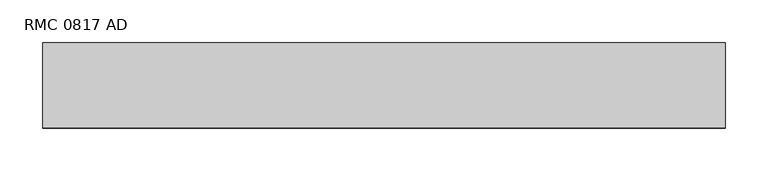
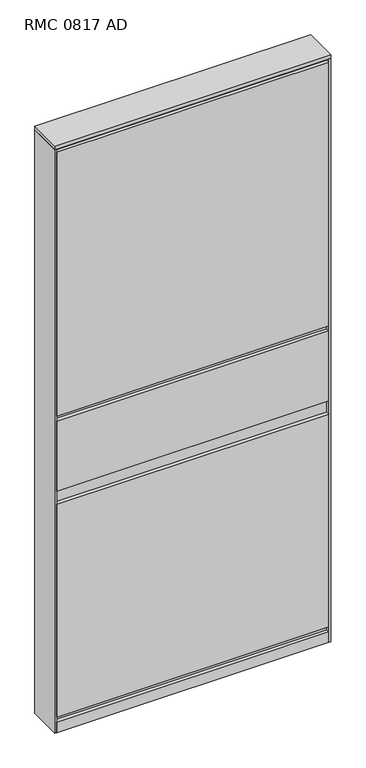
"""IFC4 building model written with IfcOpenShell, lengths in millimetres: furniture geometry, Mobiliário_MobiliáriodeEscritório_LinhaReasons_PainelCego1800mm(Acesso02Lados)-Melamina_Marelli : RMC 0817 AD."""

from ifc_helpers import new_model, si_unit, frame, origin, origin_with_axes, place, context, project, spatial, polyline, outline, extrude, source, transform, mapped, element, save


def rmc_0817_ad_4f5cd23f(model_context):
    return source(origin(), model_context, "Body", "SweptSolid", [
        extrude(outline(polyline([(795.0, 100.0), (800.0, 100.0), (800.0, 0.0), (795.0, 0.0), (795.0, 100.0)])), origin_with_axes(), (0.0, 0.0, 1.0), 1789.0),
        extrude(outline(polyline([(800.0, 100.0), (800.0, 0.0), (0.0, 0.0), (0.0, 100.0), (800.0, 100.0)])), frame((0.0, 0.0, 1789.0), z_axis=(0.0, 0.0, 1.0), x_axis=(1.0, 0.0, 0.0)), (0.0, 0.0, 1.0), 11.0),
        extrude(outline(polyline([(5.0, 11.0), (5.0, 89.0), (795.0, 89.0), (795.0, 11.0), (5.0, 11.0)])), origin_with_axes(), (0.0, 0.0, 1.0), 1789.0),
        extrude(outline(polyline([(795.0, 100.0), (795.0, 89.0), (5.0, 89.0), (5.0, 100.0), (795.0, 100.0)])), origin_with_axes(), (0.0, 0.0, 1.0), 32.0),
        extrude(outline(polyline([(795.0, 11.0), (795.0, 0.0), (5.0, 0.0), (5.0, 11.0), (795.0, 11.0)])), origin_with_axes(), (0.0, 0.0, 1.0), 32.0),
        extrude(outline(polyline([(795.0, 11.0), (795.0, 0.0), (5.0, 0.0), (5.0, 11.0), (795.0, 11.0)])), frame((0.0, 0.0, 47.0), z_axis=(0.0, 0.0, 1.0), x_axis=(1.0, 0.0, 0.0)), (0.0, 0.0, 1.0), 653.0),
        extrude(outline(polyline([(795.0, 11.0), (795.0, 0.0), (5.0, 0.0), (5.0, 11.0), (795.0, 11.0)])), frame((0.0, 0.0, 740.0), z_axis=(0.0, 0.0, 1.0), x_axis=(1.0, 0.0, 0.0)), (0.0, 0.0, 1.0), 215.0),
        extrude(outline(polyline([(795.0, 100.0), (795.0, 89.0), (5.0, 89.0), (5.0, 100.0), (795.0, 100.0)])), frame((0.0, 0.0, 47.0), z_axis=(0.0, 0.0, 1.0), x_axis=(1.0, 0.0, 0.0)), (0.0, 0.0, 1.0), 653.0),
        extrude(outline(polyline([(795.0, 100.0), (795.0, 89.0), (5.0, 89.0), (5.0, 100.0), (795.0, 100.0)])), frame((0.0, 0.0, 740.0), z_axis=(0.0, 0.0, 1.0), x_axis=(1.0, 0.0, 0.0)), (0.0, 0.0, 1.0), 215.0),
        extrude(outline(polyline([(0.0, 100.0), (5.0, 100.0), (5.0, 0.0), (0.0, 0.0), (0.0, 100.0)])), origin_with_axes(), (0.0, 0.0, 1.0), 1789.0),
        extrude(outline(polyline([(795.0, 11.0), (795.0, 0.0), (5.0, 0.0), (5.0, 11.0), (795.0, 11.0)])), frame((0.0, 0.0, 970.0), z_axis=(0.0, 0.0, 1.0), x_axis=(1.0, 0.0, 0.0)), (0.0, 0.0, 1.0), 808.5),
        extrude(outline(polyline([(795.0, 100.0), (795.0, 89.0), (5.0, 89.0), (5.0, 100.0), (795.0, 100.0)])), frame((0.0, 0.0, 970.0), z_axis=(0.0, 0.0, 1.0), x_axis=(1.0, 0.0, 0.0)), (0.0, 0.0, 1.0), 808.5),
    ])


if __name__ == "__main__":
    model = new_model("IFC4")
    model_context = context("Model", 3, world=origin())
    ifc_project = project(units=[si_unit("LENGTHUNIT", "METRE", prefix="MILLI")], contexts=[model_context])
    site = spatial("IfcSite", under=ifc_project)
    building = spatial("IfcBuilding", under=site)
    placement = place(None, origin())
    rmc_0817_ad_shape = rmc_0817_ad_4f5cd23f(model_context)
    element("IfcFurniture", 1, ObjectType="Mobiliário_MobiliáriodeEscritório_LinhaReasons_PainelCego1800mm(Acesso02Lados)-Melamina_Marelli : RMC 0817 AD", at=placement, inside=building, context=model_context, shape_type="MappedRepresentation", body=[
        mapped(rmc_0817_ad_shape, transform((0.0, 0.0, 0.0), x_axis=(1.0, 0.0, 0.0), y_axis=(0.0, 1.0, 0.0), z_axis=(0.0, 0.0, 1.0))),
    ])
    save(model, "model.ifc")
